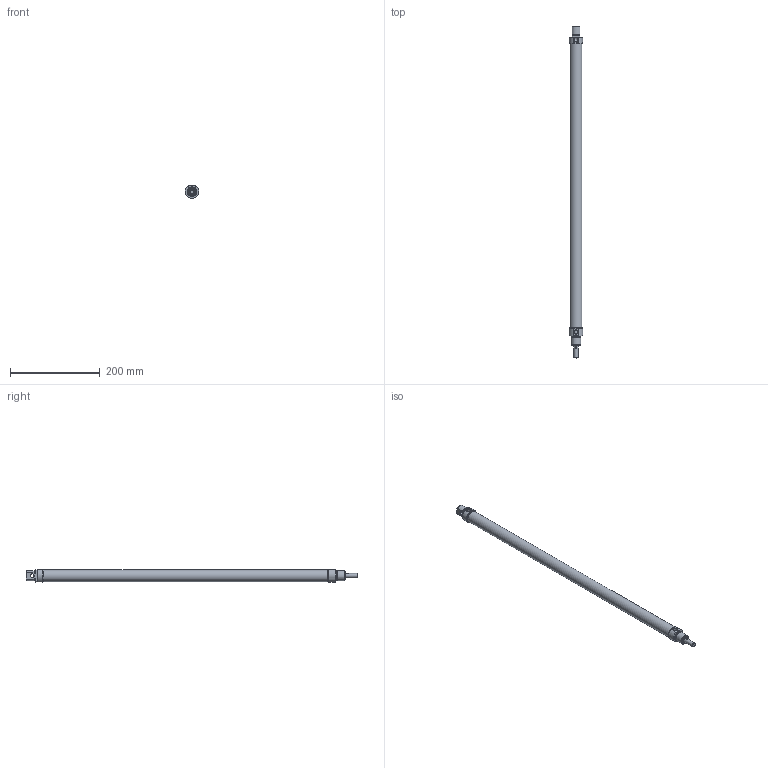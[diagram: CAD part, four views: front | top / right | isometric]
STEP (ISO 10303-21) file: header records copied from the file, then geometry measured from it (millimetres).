
FILE_DESCRIPTION((''),'2;1');
FILE_NAME('T:\Archivio Inventor\- 00 NUOVI STP PER SITO CON STELO CHE SI MUOVE\SERIE O\ODM\ODM025.---.GS.M\ODM025.600.GS.M.stp','2017-06-12T16:03:57',('carlo.corazza'),(''),'Autodesk Inventor 2013','Autodesk Inventor 2013','');
FILE_SCHEMA(('AUTOMOTIVE_DESIGN { 1 0 10303 214 1 1 1 1 }'));
Length unit declared in the file: millimetre
Products named in the file (5): ODM025..GS.M; CORPO-600; STELO-600; TA; TP
Assembly tree (4 placements, depth 2):
  ODM025..GS.M
    CORPO-600
    STELO-600
    TA
    TP
Bounding box: 30 x 740 x 28.45 mm (x, y, z)
Volume: 126635.8 mm3; surface area: 135086.5 mm2
Topology: 4 solids, 4 shells, 98 faces, 202 edges, 127 vertices
Faces by surface type: plane 38, cylinder 28, cone 24, torus 8
Full cylindrical faces by diameter (mm): 8 x2, 8.566 x2, 9.9 x1, 10 x1, 10.5 x1, 11.1 x1, 14 x1, 14.1 x1, 16.1 x1, 16.2 x1, 19.7 x1, 22 x2, 25 x1, 26.5 x1, 27 x2
Entity records: 2537 total; most frequent: DIRECTION 442, CARTESIAN_POINT 420, ORIENTED_EDGE 292, AXIS2_PLACEMENT_3D 198, EDGE_LOOP 164, EDGE_CURVE 146, VERTEX_POINT 118, FACE_OUTER_BOUND 98
